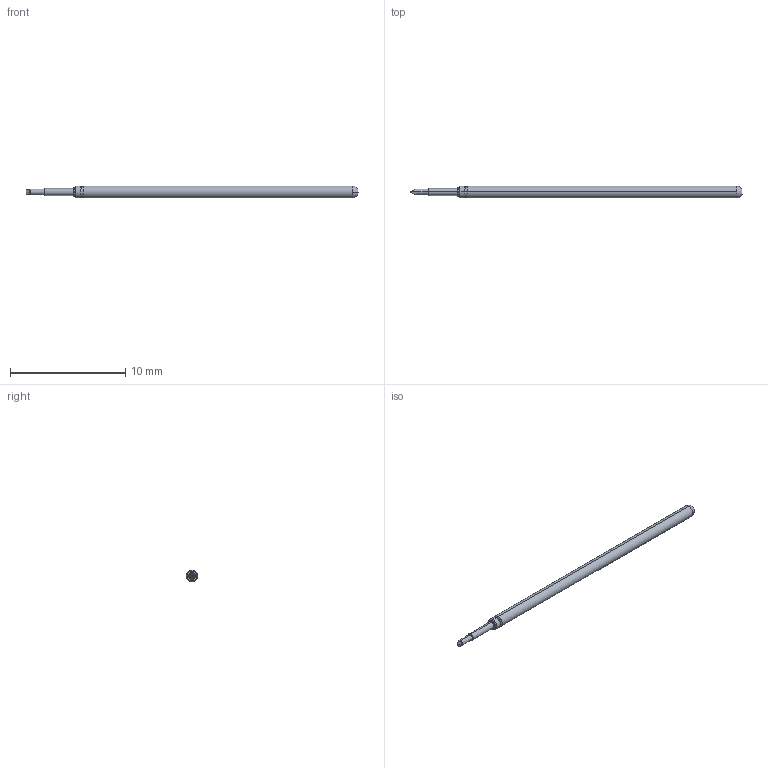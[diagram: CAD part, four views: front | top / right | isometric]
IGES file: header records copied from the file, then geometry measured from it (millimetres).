
Start section: SolidWorks IGES file using analytic representation for surfaces
Global section: file name: Z:\probe solid model mockups\Solidworks models\IGES Files\LFRE-1 IGES files\LFRE-1I15 RECD.IGS; native system: SolidWorks 2016; preprocessor: SolidWorks 2016; author: mlee; date: 180928.113511; units: inch
Bounding box: 28.78 x 1.02 x 1.02 mm (x, y, z)
Surface area: 86.6 mm2 (no closed solid volume)
Topology: 0 solids, 0 shells, 30 faces, 182 edges, 182 vertices
Faces by surface type: revolution 24, bspline 6
